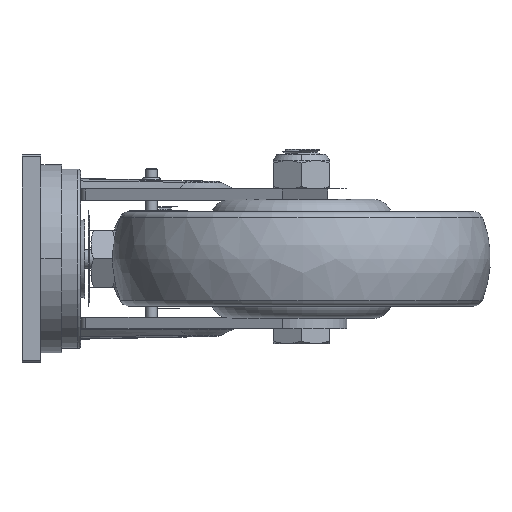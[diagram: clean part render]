
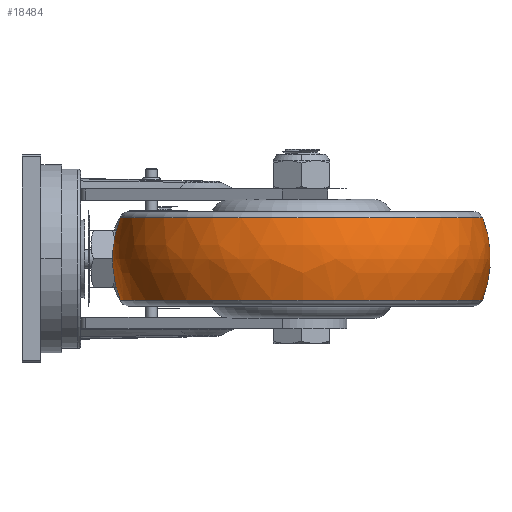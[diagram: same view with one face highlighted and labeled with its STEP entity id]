
A CAD part, left-side view. The second image highlights one B-rep face of the part: STEP entity #18484.
In plain terms, the highlighted free-form (B-spline) face has degree [3, 3] with [7, 4] control points.
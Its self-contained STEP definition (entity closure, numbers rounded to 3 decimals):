
#17934=CARTESIAN_POINT('',(-61.645,-177.998,0.));
#17935=DIRECTION('',(-1.,-0.009,0.));
#17936=DIRECTION('',(0.008,-0.932,-0.364));
#17937=AXIS2_PLACEMENT_3D('',#17934,#17935,#17936);
#17939=CARTESIAN_POINT('',(-62.355,-98.002,0.));
#17940=DIRECTION('',(1.,0.009,0.));
#17941=DIRECTION('',(-0.008,0.932,-0.364));
#17942=AXIS2_PLACEMENT_3D('',#17939,#17940,#17941);
#17949=CARTESIAN_POINT('',(-62.,-138.,-21.818));
#17950=DIRECTION('',(0.,0.,-1.));
#17951=DIRECTION('',(0.009,-1.,0.));
#17952=AXIS2_PLACEMENT_3D('',#17949,#17950,#17951);
#17954=CARTESIAN_POINT('',(-62.,-138.,21.818));
#17955=DIRECTION('',(0.,0.,-1.));
#17956=DIRECTION('',(0.009,-1.,0.));
#17957=AXIS2_PLACEMENT_3D('',#17954,#17955,#17956);
#18093=CARTESIAN_POINT('',(-61.148,-233.889,
-21.818));
#18095=VERTEX_POINT('',#18093);
#18096=CARTESIAN_POINT('',(-61.148,-233.889,
21.818));
#18097=VERTEX_POINT('',#18096);
#18125=CARTESIAN_POINT('',(-62.852,-42.111,
-21.818));
#18127=VERTEX_POINT('',#18125);
#18128=CARTESIAN_POINT('',(-62.852,-42.111,
21.818));
#18129=VERTEX_POINT('',#18128);
#18448=CARTESIAN_POINT('',(-55.153,-233.316,
22.648));
#18449=CARTESIAN_POINT('',(-54.723,-239.295,
7.941));
#18450=CARTESIAN_POINT('',(-54.723,-239.295,
-7.941));
#18451=CARTESIAN_POINT('',(-55.153,-233.316,
-22.648));
#18452=CARTESIAN_POINT('',(-113.81,-237.53,
22.648));
#18453=CARTESIAN_POINT('',(-117.06,-243.773,
7.941));
#18454=CARTESIAN_POINT('',(-117.06,-243.773,
-7.941));
#18455=CARTESIAN_POINT('',(-113.81,-237.53,
-22.648));
#18456=CARTESIAN_POINT('',(-157.035,-197.655,
22.648));
#18457=CARTESIAN_POINT('',(-162.997,-201.397,
7.941));
#18458=CARTESIAN_POINT('',(-162.997,-201.397,
-7.941));
#18459=CARTESIAN_POINT('',(-157.035,-197.655,
-22.648));
#18460=CARTESIAN_POINT('',(-157.558,-138.849,
22.648));
#18461=CARTESIAN_POINT('',(-163.552,-138.902,
7.941));
#18462=CARTESIAN_POINT('',(-163.552,-138.902,
-7.941));
#18463=CARTESIAN_POINT('',(-157.558,-138.849,
-22.648));
#18464=CARTESIAN_POINT('',(-158.08,-80.043,
22.648));
#18465=CARTESIAN_POINT('',(-164.107,-76.407,
7.941));
#18466=CARTESIAN_POINT('',(-164.107,-76.407,
-7.941));
#18467=CARTESIAN_POINT('',(-158.08,-80.043,
-22.648));
#18468=CARTESIAN_POINT('',(-115.57,-39.406,
22.648));
#18469=CARTESIAN_POINT('',(-118.93,-33.221,
7.941));
#18470=CARTESIAN_POINT('',(-118.93,-33.221,
-7.941));
#18471=CARTESIAN_POINT('',(-115.57,-39.406,
-22.648));
#18472=CARTESIAN_POINT('',(-56.847,-42.578,
22.648));
#18473=CARTESIAN_POINT('',(-56.524,-36.592,
7.941));
#18474=CARTESIAN_POINT('',(-56.524,-36.592,
-7.941));
#18475=CARTESIAN_POINT('',(-56.847,-42.578,
-22.648));
#18476=(BOUNDED_SURFACE()B_SPLINE_SURFACE(3,3,((#18448,#18449,#18450,#18451),(
#18452,#18453,#18454,#18455),(#18456,#18457,#18458,#18459),(#18460,#18461,
#18462,#18463),(#18464,#18465,#18466,#18467),(#18468,#18469,#18470,#18471),(
#18472,#18473,#18474,#18475)),.UNSPECIFIED.,.F.,.F.,.F.)B_SPLINE_SURFACE_WITH_KNOTS((4,3,4),(4,4),(0.,1.,2.),(0.,1.),.UNSPECIFIED.)GEOMETRIC_REPRESENTATION_ITEM()RATIONAL_B_SPLINE_SURFACE(((1.233,1.172,
1.172,1.233),(0.974,0.926,
0.926,0.974),(0.974,0.926,
0.926,0.974),(1.233,1.172,
1.172,1.233),(0.974,0.926,
0.926,0.974),(0.974,0.926,
0.926,0.974),(1.233,1.172,
1.172,1.233)))REPRESENTATION_ITEM('')SURFACE());
#18477=ORIENTED_EDGE('',*,*,#18431,.F.);
#18478=ORIENTED_EDGE('',*,*,#18370,.T.);
#18479=ORIENTED_EDGE('',*,*,#18435,.T.);
#18481=ORIENTED_EDGE('',*,*,#18480,.F.);
#18482=EDGE_LOOP('',(#18477,#18478,#18479,#18481));
#18483=FACE_OUTER_BOUND('',#18482,.F.);
#17938=CIRCLE('',#17937,60.);
#17943=CIRCLE('',#17942,60.);
#17953=CIRCLE('',#17952,95.892);
#17958=CIRCLE('',#17957,95.892);
#18370=EDGE_CURVE('',#18095,#18127,#17953,.T.);
#18431=EDGE_CURVE('',#18095,#18097,#17938,.T.);
#18435=EDGE_CURVE('',#18127,#18129,#17943,.T.);
#18480=EDGE_CURVE('',#18097,#18129,#17958,.T.);
#18484=ADVANCED_FACE('',(#18483),#18476,.T.);
